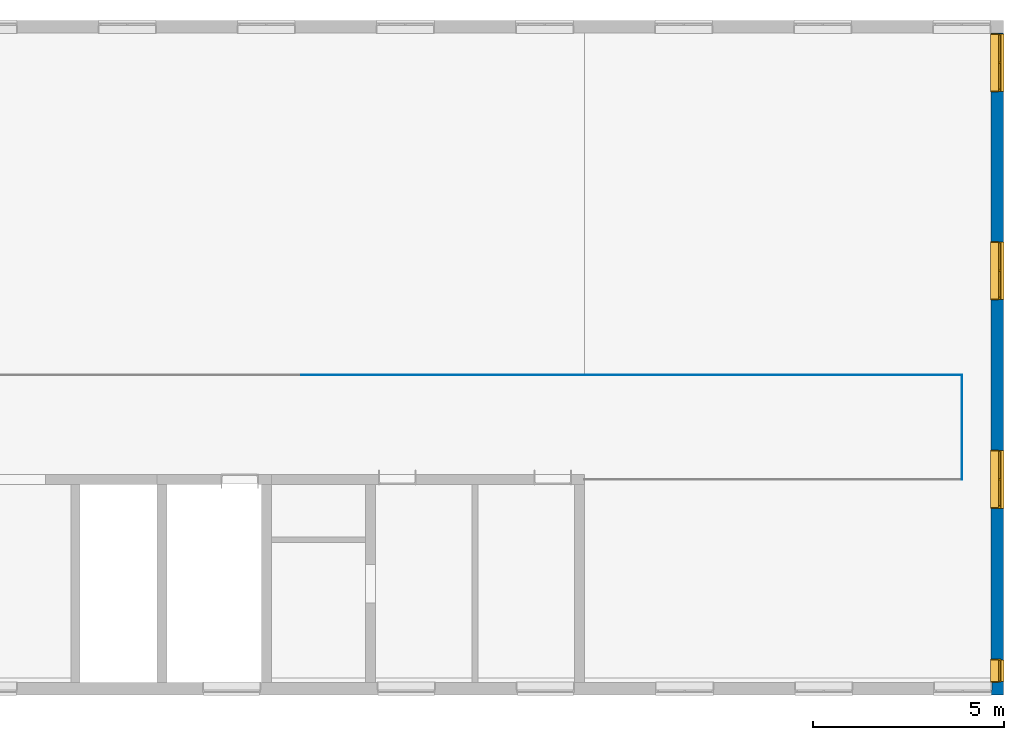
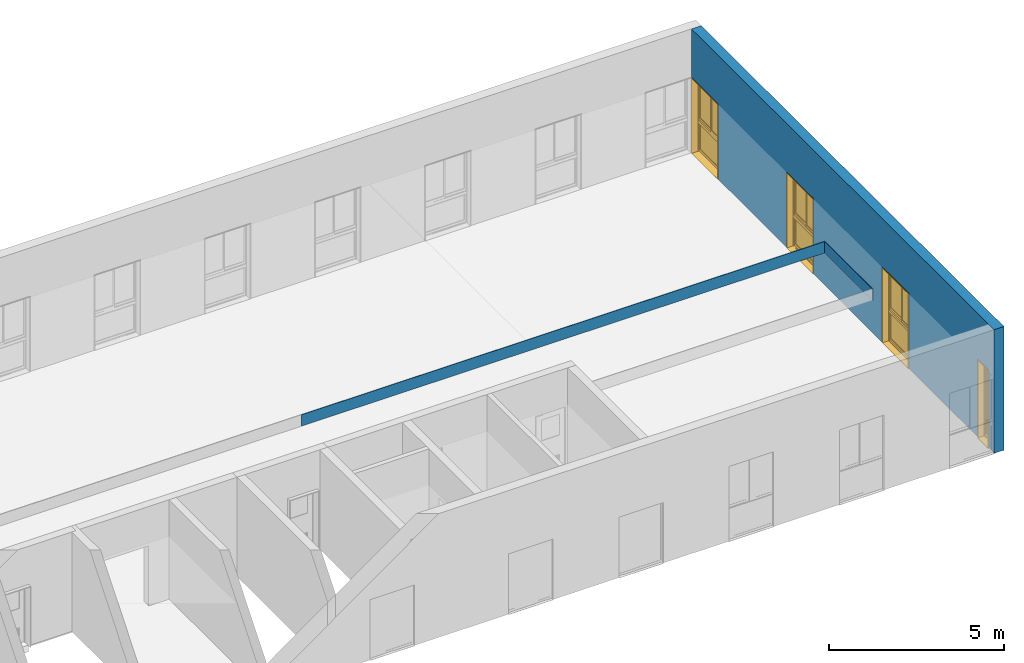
# One storey, part 10 of 11: 4 windows, 3 walls, 5 openings.
"""IFC4X3 building model written with IfcOpenShell, lengths in millimetres."""

from ifc_helpers import new_model, entity, si_unit, converted_unit, derived_unit, direction, frame, frame_2d, origin, origin_2d_with_axis, place, context, subcontext, project, spatial, polyline, rectangle, outline, extrude, faceted_brep, source, transform, mapped, material, layer, layer_set, constituent, constituent_set, type_object, type_shapes, element, fill, save


model = new_model("IFC4X3")

# Units and contexts
model_context = context("Model", 3, precision=0.01, world=origin(), true_north=direction((6.12303176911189e-17, 1.0)))
body_context = subcontext(model_context, "Body", "Model", "MODEL_VIEW")
ifc_project = project(units=[si_unit("LENGTHUNIT", "METRE", prefix="MILLI"), si_unit("AREAUNIT", "SQUARE_METRE"), si_unit("VOLUMEUNIT", "CUBIC_METRE"), converted_unit("PLANEANGLEUNIT", "DEGREE", entity("IfcPlaneAngleMeasure", 0.0174532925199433), si_unit("PLANEANGLEUNIT", "RADIAN"), dimensions=[0, 0, 0, 0, 0, 0, 0]), si_unit("MASSUNIT", "GRAM", prefix="KILO"), derived_unit("MASSDENSITYUNIT", [(si_unit("MASSUNIT", "GRAM", prefix="KILO"), 1), (si_unit("LENGTHUNIT", "METRE"), -3)]), derived_unit("IONCONCENTRATIONUNIT", [(si_unit("MASSUNIT", "GRAM", prefix="KILO"), 1), (si_unit("LENGTHUNIT", "METRE"), -3)]), derived_unit("MOMENTOFINERTIAUNIT", [(si_unit("LENGTHUNIT", "METRE"), 4)]), si_unit("TIMEUNIT", "SECOND"), si_unit("FREQUENCYUNIT", "HERTZ"), si_unit("THERMODYNAMICTEMPERATUREUNIT", "DEGREE_CELSIUS"), derived_unit("THERMALTRANSMITTANCEUNIT", [(si_unit("MASSUNIT", "GRAM", prefix="KILO"), 1), (si_unit("THERMODYNAMICTEMPERATUREUNIT", "KELVIN"), -1), (si_unit("TIMEUNIT", "SECOND"), -3)]), derived_unit("THERMALCONDUCTANCEUNIT", [(si_unit("MASSUNIT", "GRAM", prefix="KILO"), 1), (si_unit("THERMODYNAMICTEMPERATUREUNIT", "KELVIN"), -1), (si_unit("TIMEUNIT", "SECOND"), -3), (si_unit("LENGTHUNIT", "METRE"), 1)]), derived_unit("VOLUMETRICFLOWRATEUNIT", [(si_unit("LENGTHUNIT", "METRE", prefix="DECI"), 3), (si_unit("TIMEUNIT", "SECOND"), -1)]), derived_unit("MASSFLOWRATEUNIT", [(si_unit("MASSUNIT", "GRAM", prefix="KILO"), 1), (si_unit("TIMEUNIT", "SECOND"), -1)]), derived_unit("ROTATIONALFREQUENCYUNIT", [(si_unit("TIMEUNIT", "SECOND"), -1)]), si_unit("ELECTRICCURRENTUNIT", "AMPERE"), si_unit("ELECTRICVOLTAGEUNIT", "VOLT"), si_unit("POWERUNIT", "WATT"), si_unit("FORCEUNIT", "NEWTON", prefix="KILO"), si_unit("ILLUMINANCEUNIT", "LUX"), si_unit("LUMINOUSFLUXUNIT", "LUMEN"), si_unit("LUMINOUSINTENSITYUNIT", "CANDELA"), si_unit("ENERGYUNIT", "JOULE"), derived_unit("USERDEFINED", [(si_unit("MASSUNIT", "GRAM", prefix="KILO"), -1), (si_unit("LENGTHUNIT", "METRE"), -2), (si_unit("TIMEUNIT", "SECOND"), 3), (si_unit("LUMINOUSFLUXUNIT", "LUMEN"), 1)]), derived_unit("USERDEFINED", [(si_unit("MASSUNIT", "GRAM", prefix="KILO"), 1), (si_unit("TIMEUNIT", "SECOND"), -3), (si_unit("LENGTHUNIT", "METRE"), 3), (si_unit("ELECTRICCURRENTUNIT", "AMPERE"), -2)]), derived_unit("SOUNDPOWERUNIT", [(si_unit("MASSUNIT", "GRAM", prefix="KILO"), 1), (si_unit("TIMEUNIT", "SECOND"), -3), (si_unit("LENGTHUNIT", "METRE"), 2)]), derived_unit("SOUNDPRESSUREUNIT", [(si_unit("MASSUNIT", "GRAM", prefix="KILO"), 1), (si_unit("LENGTHUNIT", "METRE"), -1), (si_unit("TIMEUNIT", "SECOND"), -2)]), derived_unit("LINEARVELOCITYUNIT", [(si_unit("LENGTHUNIT", "METRE"), 1), (si_unit("TIMEUNIT", "SECOND"), -1)]), si_unit("PRESSUREUNIT", "PASCAL"), derived_unit("USERDEFINED", [(si_unit("MASSUNIT", "GRAM", prefix="KILO"), 1), (si_unit("LENGTHUNIT", "METRE"), -2), (si_unit("TIMEUNIT", "SECOND"), -2)]), derived_unit("LINEARFORCEUNIT", [(si_unit("MASSUNIT", "GRAM", prefix="KILO"), 1), (si_unit("TIMEUNIT", "SECOND"), -2)]), derived_unit("PLANARFORCEUNIT", [(si_unit("MASSUNIT", "GRAM", prefix="KILO"), 1), (si_unit("LENGTHUNIT", "METRE"), -1), (si_unit("TIMEUNIT", "SECOND"), -2)]), derived_unit("SPECIFICHEATCAPACITYUNIT", [(si_unit("THERMODYNAMICTEMPERATUREUNIT", "KELVIN"), -1), (si_unit("LENGTHUNIT", "METRE"), 2), (si_unit("TIMEUNIT", "SECOND"), -2)]), derived_unit("HEATFLUXDENSITYUNIT", [(si_unit("MASSUNIT", "GRAM", prefix="KILO"), 1), (si_unit("TIMEUNIT", "SECOND"), -3)]), derived_unit("HEATINGVALUEUNIT", [(si_unit("LENGTHUNIT", "METRE"), 2), (si_unit("TIMEUNIT", "SECOND"), -2)]), derived_unit("VAPORPERMEABILITYUNIT", [(si_unit("LENGTHUNIT", "METRE"), -1), (si_unit("TIMEUNIT", "SECOND"), 1)]), derived_unit("DYNAMICVISCOSITYUNIT", [(si_unit("MASSUNIT", "GRAM", prefix="KILO"), 1), (si_unit("TIMEUNIT", "SECOND"), -1), (si_unit("LENGTHUNIT", "METRE"), -1)]), derived_unit("THERMALEXPANSIONCOEFFICIENTUNIT", [(si_unit("THERMODYNAMICTEMPERATUREUNIT", "KELVIN"), -1)]), derived_unit("MODULUSOFELASTICITYUNIT", [(si_unit("MASSUNIT", "GRAM", prefix="KILO"), 1), (si_unit("LENGTHUNIT", "METRE"), -1), (si_unit("TIMEUNIT", "SECOND"), -2)]), derived_unit("ISOTHERMALMOISTURECAPACITYUNIT", [(si_unit("MASSUNIT", "GRAM", prefix="KILO"), -1), (si_unit("LENGTHUNIT", "METRE"), 3)]), derived_unit("MOISTUREDIFFUSIVITYUNIT", [(si_unit("TIMEUNIT", "SECOND"), -1), (si_unit("LENGTHUNIT", "METRE"), 2)]), derived_unit("AREADENSITYUNIT", [(si_unit("MASSUNIT", "GRAM", prefix="KILO"), 1), (si_unit("LENGTHUNIT", "METRE"), 2)]), derived_unit("MASSPERLENGTHUNIT", [(si_unit("MASSUNIT", "GRAM", prefix="KILO"), 1), (si_unit("LENGTHUNIT", "METRE"), -1)]), derived_unit("THERMALRESISTANCEUNIT", [(si_unit("MASSUNIT", "GRAM", prefix="KILO"), -1), (si_unit("TIMEUNIT", "SECOND"), 3), (si_unit("THERMODYNAMICTEMPERATUREUNIT", "KELVIN"), 1)]), derived_unit("ACCELERATIONUNIT", [(si_unit("LENGTHUNIT", "METRE"), 1), (si_unit("TIMEUNIT", "SECOND"), -2)]), derived_unit("ANGULARVELOCITYUNIT", [(si_unit("TIMEUNIT", "SECOND"), -1), (si_unit("PLANEANGLEUNIT", "RADIAN"), 1)]), derived_unit("LINEARSTIFFNESSUNIT", [(si_unit("MASSUNIT", "GRAM", prefix="KILO"), 1), (si_unit("TIMEUNIT", "SECOND"), -2)]), derived_unit("WARPINGCONSTANTUNIT", [(si_unit("LENGTHUNIT", "METRE"), 6)]), derived_unit("LINEARMOMENTUNIT", [(si_unit("MASSUNIT", "GRAM", prefix="KILO"), 1), (si_unit("LENGTHUNIT", "METRE"), 1), (si_unit("TIMEUNIT", "SECOND"), -2)]), derived_unit("TORQUEUNIT", [(si_unit("MASSUNIT", "GRAM", prefix="KILO"), 1), (si_unit("LENGTHUNIT", "METRE"), 2), (si_unit("TIMEUNIT", "SECOND"), -2)])], contexts=[model_context])

# Site, building, storey
site_placement = place(None, origin())
site = spatial("IfcSite", under=ifc_project, at=site_placement, Name="Default", CompositionType="ELEMENT")
building_placement = place(site_placement, origin())
building = spatial("IfcBuilding", under=site, at=building_placement, Name="事務所ビル", CompositionType="ELEMENT")
storey_placement = place(building_placement, frame((0.0, 0.0, 8000.0)))
storey = spatial("IfcBuildingStorey", under=building, at=storey_placement, Name="3FL", CompositionType="ELEMENT", Elevation=8000.0)

# Wall, openings, windows
ifc_material_1 = material(Name="<Unnamed>")
ifc_layer_1 = layer(ifc_material_1, 46.0, Name="Layer")
ifc_material_2 = material(Name="合板", Category="一般")
ifc_layer_2 = layer(ifc_material_2, 12.0, Name="合板", Category="一般")
ifc_material_3 = material(Name="天然木材", Category="一般")
ifc_layer_3 = layer(ifc_material_3, 240.0, Name="天然木材", Category="一般")
ifc_layer_4 = layer(ifc_material_2, 12.0, Name="合板", Category="一般")
ifc_material_4 = material(Name="せっこうボード", Category="一般")
ifc_layer_5 = layer(ifc_material_4, 15.0, Name="せっこうボード", Category="一般")
ifc_layer_set_1 = layer_set([ifc_layer_1, ifc_layer_2, ifc_layer_3, ifc_layer_4, ifc_layer_5], Name="標準壁:外装材46_構造用合板12_木240_構造用合板12_GB-R15")
wall_type_1 = type_object("IfcWallType", Name="標準壁:外装材46_構造用合板12_木240_構", PredefinedType="STANDARD", material=ifc_layer_set_1)
wall_1_placement = place(storey_placement, frame((49155.4999999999, -178.0, 0.0), z_axis=(0.0, 0.0, 1.0), x_axis=(0.0, 1.0, 0.0)))
wall_1 = element("IfcWall", 1, at=wall_1_placement, inside=storey, type_object=wall_type_1, material=ifc_layer_set_1, Name="標準壁:外装材46_構造用合板12_木240_構造用合板12_GB-R15", ObjectType="標準壁:外装材46_構造用合板12_木240_構造用合板12_GB-R15", PredefinedType="NOTDEFINED", context=body_context, shape_type="SweptSolid", body=[
    extrude(rectangle(XDim=17321.0000000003, YDim=325.000000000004, at=frame_2d((8660.50000000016, -5.31485966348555e-12), x_axis=(1.0, 0.0))), origin(), (0.0, 0.0, 1.0), 4320.0),
])
opening_1_placement = place(wall_1_placement, frame((178.0, 49155.4999999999, 0.0)))
element("IfcOpeningElement", 2, at=opening_1_placement, cuts=wall_1, Name="標準壁:外装材46_構造用合板12_木240_構造用合板12_GB-R15", PredefinedType="OPENING", context=body_context, shape_type="Brep", body=[
    faceted_brep([(157.0, -47484.4999999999, -35.0), (-48.0, -47484.4999999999, -35.0), (-48.0, -47484.4999999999, 2635.0), (157.0, -47484.4999999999, 2635.0), (157.0, -49014.4999999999, -35.0), (157.0, -49014.4999999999, 2635.0), (-48.0, -49014.4999999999, 2635.0), (-48.0, -49014.4999999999, -35.0), (-48.0, -49004.4999999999, -35.0), (-48.0, -47494.4999999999, -35.0), (-48.0, -47494.4999999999, 2630.0), (-48.0, -49004.4999999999, 2630.0), (-48.0, -47494.4999999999, -105.0), (-118.0, -47494.4999999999, -115.769230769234), (-118.0, -47494.4999999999, 2630.0), (-48.0, -49004.4999999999, -105.0), (-118.0, -49004.4999999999, 2630.0), (-118.0, -49004.4999999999, -115.769230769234), (-118.0, -47514.4999999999, 2610.0), (-118.0, -48984.4999999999, 2610.0), (-118.0, -48984.4999999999, -10.0), (-118.0, -47514.4999999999, -10.0), (-178.0, -47514.4999999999, -10.0), (-178.0, -47514.4999999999, 2610.0), (-178.0, -48984.4999999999, 2610.0), (-178.0, -48984.4999999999, -10.0)], [[[0, 1, 2, 3]], [[4, 5, 6, 7]], [[0, 4, 7, 8, 9, 1]], [[1, 9, 10, 11, 8, 7, 6, 2]], [[2, 6, 5, 3]], [[3, 5, 4, 0]], [[10, 9, 12, 13, 14]], [[15, 8, 11, 16, 17]], [[12, 15, 17, 13]], [[13, 17, 16, 14], [18, 19, 20, 21]], [[14, 16, 11, 10]], [[12, 9, 8, 15]], [[18, 21, 22, 23]], [[20, 19, 24, 25]], [[21, 20, 25, 22]], [[22, 25, 24, 23]], [[23, 24, 19, 18]]]),
])
opening_2_placement = place(wall_1_placement, frame((178.0, 49155.4999999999, 0.0), z_axis=(0.0, 0.0, 1.0), x_axis=(0.0, -1.0, 0.0)))
opening_2 = element("IfcOpeningElement", 3, at=opening_2_placement, cuts=wall_1, Name="標準壁:外装材46_構造用合板12_木240_構造用合板12_GB-R15", PredefinedType="OPENING", context=body_context, shape_type="Brep", body=[
    faceted_brep([(49188.0, 15611.4999999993, -105.0), (49188.0, 15611.4999999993, -35.0), (49188.0, 17121.4999999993, -35.0), (49188.0, 17121.4999999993, -105.0), (49258.0, 15631.4999999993, 2610.0), (49258.0, 15631.4999999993, -10.0), (49318.0, 15631.4999999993, -10.0), (49318.0, 15631.4999999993, 2610.0), (49258.0, 17101.4999999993, -10.0), (49258.0, 17101.4999999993, 2610.0), (49318.0, 17101.4999999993, 2610.0), (49318.0, 17101.4999999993, -10.0), (48983.0, 15601.4999999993, -35.0), (49188.0, 15601.4999999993, -35.0), (49188.0, 15601.4999999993, 2635.0), (48983.0, 15601.4999999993, 2635.0), (48983.0, 17131.4999999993, -35.0), (48983.0, 17131.4999999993, 2635.0), (49188.0, 17131.4999999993, 2635.0), (49188.0, 17131.4999999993, -35.0), (49188.0, 15611.4999999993, 2630.0), (49188.0, 17121.4999999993, 2630.0), (49258.0, 15611.4999999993, -115.769230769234), (49258.0, 15611.4999999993, 2630.0), (49258.0, 17121.4999999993, 2630.0), (49258.0, 17121.4999999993, -115.769230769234)], [[[0, 1, 2, 3]], [[4, 5, 6, 7]], [[8, 9, 10, 11]], [[5, 8, 11, 6]], [[7, 10, 9, 4]], [[12, 13, 14, 15]], [[16, 17, 18, 19]], [[12, 16, 19, 2, 1, 13]], [[13, 1, 20, 21, 2, 19, 18, 14]], [[14, 18, 17, 15]], [[15, 17, 16, 12]], [[20, 1, 0, 22, 23]], [[3, 2, 21, 24, 25]], [[0, 3, 25, 22]], [[22, 25, 24, 23], [4, 9, 8, 5]], [[23, 24, 21, 20]], [[6, 11, 10, 7]]]),
])
opening_3_placement = place(wall_1_placement, frame((178.0, 49155.4999999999, 0.0), z_axis=(0.0, 0.0, 1.0), x_axis=(0.0, -1.0, 0.0)))
opening_3 = element("IfcOpeningElement", 4, at=opening_3_placement, cuts=wall_1, Name="標準壁:外装材46_構造用合板12_木240_構造用合板12_GB-R15", PredefinedType="OPENING", context=body_context, shape_type="Brep", body=[
    faceted_brep([(49188.0, 10165.0, -105.0), (49188.0, 10165.0, -35.0), (49188.0, 11675.0, -35.0), (49188.0, 11675.0, -105.0), (49258.0, 10185.0, 2610.0), (49258.0, 10185.0, -10.0), (49318.0, 10185.0, -10.0), (49318.0, 10185.0, 2610.0), (49258.0, 11655.0, -10.0), (49258.0, 11655.0, 2610.0), (49318.0, 11655.0, 2610.0), (49318.0, 11655.0, -10.0), (48983.0, 10155.0, -35.0), (49188.0, 10155.0, -35.0), (49188.0, 10155.0, 2635.0), (48983.0, 10155.0, 2635.0), (48983.0, 11685.0, -35.0), (48983.0, 11685.0, 2635.0), (49188.0, 11685.0, 2635.0), (49188.0, 11685.0, -35.0), (49188.0, 10165.0, 2630.0), (49188.0, 11675.0, 2630.0), (49258.0, 10165.0, -115.769230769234), (49258.0, 10165.0, 2630.0), (49258.0, 11675.0, 2630.0), (49258.0, 11675.0, -115.769230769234)], [[[0, 1, 2, 3]], [[4, 5, 6, 7]], [[8, 9, 10, 11]], [[5, 8, 11, 6]], [[7, 10, 9, 4]], [[12, 13, 14, 15]], [[16, 17, 18, 19]], [[12, 16, 19, 2, 1, 13]], [[13, 1, 20, 21, 2, 19, 18, 14]], [[14, 18, 17, 15]], [[15, 17, 16, 12]], [[20, 1, 0, 22, 23]], [[3, 2, 21, 24, 25]], [[0, 3, 25, 22]], [[22, 25, 24, 23], [4, 9, 8, 5]], [[23, 24, 21, 20]], [[6, 11, 10, 7]]]),
])
opening_4_placement = place(wall_1_placement, frame((178.0, 49155.4999999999, 0.0), z_axis=(0.0, 0.0, 1.0), x_axis=(0.0, -1.0, 0.0)))
opening_4 = element("IfcOpeningElement", 5, at=opening_4_placement, cuts=wall_1, Name="標準壁:外装材46_構造用合板12_木240_構造用合板12_GB-R15", PredefinedType="OPENING", context=body_context, shape_type="Brep", body=[
    faceted_brep([(49188.0, 4705.0, -105.0), (49188.0, 4705.0, -35.0), (49188.0, 6215.0, -35.0), (49188.0, 6215.0, -105.0), (49258.0, 4725.0, 2610.0), (49258.0, 4725.0, -10.0), (49318.0, 4725.0, -10.0), (49318.0, 4725.0, 2610.0), (49258.0, 6195.0, -10.0), (49258.0, 6195.0, 2610.0), (49318.0, 6195.0, 2610.0), (49318.0, 6195.0, -10.0), (48983.0, 4695.0, -35.0), (49188.0, 4695.0, -35.0), (49188.0, 4695.0, 2635.0), (48983.0, 4695.0, 2635.0), (48983.0, 6225.0, -35.0), (48983.0, 6225.0, 2635.0), (49188.0, 6225.0, 2635.0), (49188.0, 6225.0, -35.0), (49188.0, 4705.0, 2630.0), (49188.0, 6215.0, 2630.0), (49258.0, 4705.0, -115.769230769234), (49258.0, 4705.0, 2630.0), (49258.0, 6215.0, 2630.0), (49258.0, 6215.0, -115.769230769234)], [[[0, 1, 2, 3]], [[4, 5, 6, 7]], [[8, 9, 10, 11]], [[5, 8, 11, 6]], [[7, 10, 9, 4]], [[12, 13, 14, 15]], [[16, 17, 18, 19]], [[12, 16, 19, 2, 1, 13]], [[13, 1, 20, 21, 2, 19, 18, 14]], [[14, 18, 17, 15]], [[15, 17, 16, 12]], [[20, 1, 0, 22, 23]], [[3, 2, 21, 24, 25]], [[0, 3, 25, 22]], [[22, 25, 24, 23], [4, 9, 8, 5]], [[23, 24, 21, 20]], [[6, 11, 10, 7]]]),
])
opening_5_placement = place(wall_1_placement, frame((178.0, 49155.4999999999, 0.0), z_axis=(0.0, 0.0, 1.0), x_axis=(0.0, -1.0, 0.0)))
opening_5 = element("IfcOpeningElement", 6, at=opening_5_placement, cuts=wall_1, Name="標準壁:外装材46_構造用合板12_木240_構造用合板12_GB-R15", PredefinedType="OPENING", context=body_context, shape_type="Brep", body=[
    faceted_brep([(49188.0, 765.0, -35.0), (49188.0, 765.0, 2735.0), (49188.0, 145.0, 2735.0), (49188.0, 145.0, -35.0), (49188.0, 155.0, -35.0), (49188.0, 155.0, 2730.0), (49188.0, 755.0, 2730.0), (49188.0, 755.0, -35.0), (49258.0, 755.0, -115.769230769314), (49258.0, 755.0, 2730.0), (49258.0, 155.0, 2730.0), (49258.0, 155.0, -115.769230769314), (49258.0, 175.0, -115.769230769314), (49258.0, 175.0, 2710.0), (49258.0, 735.0, 2710.0), (49258.0, 735.0, -115.769230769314), (48983.0, 765.0, -35.0), (48983.0, 765.0, 2735.0), (48983.0, 145.0, -35.0), (48983.0, 145.0, 2735.0), (49188.0, 755.0, -105.0), (49188.0, 155.0, -105.0), (49318.0, 735.0, -125.0), (49318.0, 175.0, -125.0), (49318.0, 735.0, 2710.0), (49318.0, 175.0, 2710.0)], [[[0, 1, 2, 3, 4, 5, 6, 7]], [[8, 9, 10, 11, 12, 13, 14, 15]], [[16, 17, 1, 0]], [[18, 3, 2, 19]], [[16, 0, 7, 4, 3, 18]], [[1, 17, 19, 2]], [[17, 16, 18, 19]], [[6, 9, 8, 20, 7]], [[21, 11, 10, 5, 4]], [[20, 8, 15, 22, 23, 12, 11, 21]], [[9, 6, 5, 10]], [[20, 21, 4, 7]], [[14, 24, 22, 15]], [[12, 23, 25, 13]], [[22, 24, 25, 23]], [[24, 14, 13, 25]]]),
])
ifc_material_5 = material(Name="ガラス - 透明", Category="未設定")
ifc_constituent_1 = constituent(ifc_material_5, Name="ガラス - 透明", Category="未設定")
ifc_material_6 = material(Name="金属 - アルミニウム", Category="未設定")
ifc_constituent_2 = constituent(ifc_material_6, Name="金属 - アルミニウム", Category="未設定")
ifc_material_7 = material(Name="塗装 - 白", Category="未設定")
ifc_constituent_3 = constituent(ifc_material_7, Name="塗装 - 白", Category="未設定")
ifc_constituent_set_1 = constituent_set(constituents=[ifc_constituent_1, ifc_constituent_2, ifc_constituent_3])
ifc_constituent_4 = constituent(ifc_material_5, Name="ガラス", Category="未設定")
ifc_constituent_5 = constituent(ifc_material_6, Name="フレーム/マリオン", Category="未設定")
ifc_constituent_6 = constituent(ifc_material_7, Name="縁飾り", Category="未設定")
ifc_constituent_set_2 = constituent_set(constituents=[ifc_constituent_4, ifc_constituent_5, ifc_constituent_6])
window_type_1 = type_object("IfcWindowType", Name="鋼製_一般枠_2 段 1 列_嵌殺し+引違い:1450x2600", ParameterTakesPrecedence=False, PartitioningType="NOTDEFINED", PredefinedType="WINDOW", material=ifc_constituent_set_2)
shared_shape_1 = source(origin(), body_context, "Body", "SweptSolid", [
    extrude(rectangle(XDim=5.0, YDim=664.999999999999, at=frame_2d((-4.21884749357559e-15, 0.0), x_axis=(1.0, 0.0))), frame((1117.5, 232.500000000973, 1295.76923076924), z_axis=(0.0, 0.0, 1.0), x_axis=(0.0, 1.0, 0.0)), (0.0, 0.0, 1.0), 1379.99999999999),
    extrude(rectangle(XDim=5.0, YDim=664.999999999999, at=frame_2d((-8.43769498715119e-15, 0.0), x_axis=(1.0, 0.0))), frame((412.5, 262.500000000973, 1295.76923076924), z_axis=(0.0, 0.0, 1.0), x_axis=(0.0, 1.0, 0.0)), (0.0, 0.0, 1.0), 1379.99999999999),
    extrude(outline(polyline([(-372.5, -750.0), (372.5, -750.0), (372.5, 750.0), (-372.5, 750.0), (-372.5, -750.0)]), holes=[polyline([(-332.5, -670.0), (-332.5, 710.0), (332.5, 710.0), (332.5, -670.0), (-332.5, -670.0)])]), frame((1117.5, 210.0, 1965.76923076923), z_axis=(0.0, 1.0, 0.0), x_axis=(-1.0, 0.0, 0.0)), (0.0, 0.0, 1.0), 30.0),
    extrude(outline(polyline([(-372.5, -750.0), (372.5, -750.0), (372.5, 750.0), (-372.5, 750.0), (-372.5, -750.0)]), holes=[polyline([(-332.5, -670.0), (-332.5, 710.0), (332.499999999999, 710.0), (332.499999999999, -670.0), (-332.5, -670.0)])]), frame((412.5, 240.0, 1965.76923076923), z_axis=(0.0, 1.0, 0.0), x_axis=(-1.0, 0.0, 0.0)), (0.0, 0.0, 1.0), 30.0),
    extrude(rectangle(XDim=5.0, YDim=1370.0, at=frame_2d((-8.43769498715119e-15, 0.0), x_axis=(1.0, 0.0))), frame((765.0, 262.500000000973, 205.769230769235), z_axis=(0.0, 0.0, 1.0), x_axis=(0.0, 1.0, 0.0)), (0.0, 0.0, 1.0), 869.999999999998),
    extrude(outline(polyline([(-725.0, -500.0), (725.0, -500.0), (725.0, 500.0), (-725.0, 500.0), (-725.0, -500.0)]), holes=[polyline([(-685.0, -410.0), (-685.0, 460.0), (685.0, 460.0), (685.0, -410.0), (-685.0, -410.0)])]), frame((765.0, 240.0, 615.769230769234), z_axis=(0.0, 1.0, 0.0), x_axis=(-1.0, 0.0, 0.0)), (0.0, 0.0, 1.0), 30.0),
    extrude(outline(polyline([(-43.5189986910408, -5.68477162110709), (32.1447310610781, -5.68477162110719), (37.1008705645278, -5.0239530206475), (35.7792333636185, 4.88832598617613), (30.8230938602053, 4.2275073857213), (31.5092934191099, -0.918989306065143), (-39.1116522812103, -0.918989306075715), (-39.8859354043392, 4.88813411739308), (-44.8406358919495, 4.22750738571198), (-43.5189986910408, -5.68477162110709)])), frame((10.0, 306.111433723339, 115.885959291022), z_axis=(1.0, 0.0, 0.0), x_axis=(0.0, -0.991227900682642, 0.132163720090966)), (0.0, 0.0, 1.0), 1510.0),
    extrude(rectangle(XDim=205.000000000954, YDim=1530.0, at=frame_2d((0.0, 5.6843418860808e-14), x_axis=(1.0, 0.0))), frame((765.0, 102.500000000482, 105.769230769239), z_axis=(0.0, 0.0, 1.0), x_axis=(0.0, 1.0, 0.0)), (0.0, 0.0, 1.0), 9.99999999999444),
    extrude(outline(polyline([(-1311.25000000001, -765.0), (1323.75000000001, -765.0), (1323.75000000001, 765.0), (-1311.25000000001, 765.0), (-1311.25000000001, 740.0), (1298.75000000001, 740.0), (1298.75000000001, -740.0), (-1311.25000000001, -740.0), (-1311.25000000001, -765.0)])), frame((765.0, 0.0, 1427.01923076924), z_axis=(0.0, 1.0, 0.0), x_axis=(0.0, 0.0, 1.0)), (0.0, 0.0, 1.0), 205.000000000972),
    extrude(outline(polyline([(-1307.5, -755.0), (1322.5, -755.0), (1322.5, 755.0), (-1307.5, 755.0), (-1307.5, 725.0), (1292.5, 725.0), (1292.5, -725.0), (-1307.5, -725.0), (-1307.5, -755.0)])), frame((765.0, 205.0, 1423.26923076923), z_axis=(0.0, 1.0, 0.0), x_axis=(0.0, 0.0, 1.0)), (0.0, 0.0, 1.0), 69.9999999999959),
    extrude(rectangle(XDim=1450.0, YDim=70.0, at=frame_2d((0.0, 1.06581410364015e-14), x_axis=(1.0, 0.0))), frame((765.0, 240.0, 105.769230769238)), (0.0, 0.0, 1.0), 18.7551639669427),
    extrude(outline(polyline([(-47.4999999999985, -35.0), (42.4999999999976, -35.0), (52.4999999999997, 35.0), (-47.4999999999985, 35.0), (-47.4999999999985, -35.0)])), frame((40.0, 240.0, 1163.26923076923), z_axis=(1.0, 0.0, 0.0), x_axis=(0.0, 0.0, 1.0)), (0.0, 0.0, 1.0), 1450.0),
])
type_shapes(window_type_1, [shared_shape_1])
window_1_placement = place(opening_4_placement, frame((48983.0, 6225.0, -115.769230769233), z_axis=(0.0, 0.0, 1.0), x_axis=(0.0, -1.0, 0.0)))
window_1 = element("IfcWindow", 7, at=window_1_placement, inside=storey, type_object=window_type_1, material=ifc_constituent_set_1, Name="鋼製_一般枠_2 段 1 列_嵌殺し+引違い:1450x2600", ObjectType="鋼製_一般枠_2 段 1 列_嵌殺し+引違い:1450x2600", OverallHeight=2760.00000000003, OverallWidth=1532.0, PartitioningType="NOTDEFINED", PredefinedType="WINDOW", context=body_context, shape_type="MappedRepresentation", body=[
    mapped(shared_shape_1, transform((0.0, 0.0, 0.0), scale=1.0)),
])
fill(opening_4, window_1)
ifc_constituent_7 = constituent(ifc_material_5, Name="ガラス - 透明", Category="未設定")
ifc_constituent_8 = constituent(ifc_material_6, Name="金属 - アルミニウム", Category="未設定")
ifc_constituent_9 = constituent(ifc_material_7, Name="塗装 - 白", Category="未設定")
ifc_constituent_set_3 = constituent_set(constituents=[ifc_constituent_7, ifc_constituent_8, ifc_constituent_9])
window_2_placement = place(opening_3_placement, frame((48983.0, 11685.0, -115.769230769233), z_axis=(0.0, 0.0, 1.0), x_axis=(0.0, -1.0, 0.0)))
window_2 = element("IfcWindow", 8, at=window_2_placement, inside=storey, type_object=window_type_1, material=ifc_constituent_set_3, Name="鋼製_一般枠_2 段 1 列_嵌殺し+引違い:1450x2600", ObjectType="鋼製_一般枠_2 段 1 列_嵌殺し+引違い:1450x2600", OverallHeight=2760.00000000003, OverallWidth=1532.0, PartitioningType="NOTDEFINED", PredefinedType="WINDOW", context=body_context, shape_type="MappedRepresentation", body=[
    mapped(shared_shape_1, transform((0.0, 0.0, 0.0), scale=1.0)),
])
fill(opening_3, window_2)
ifc_constituent_10 = constituent(ifc_material_5, Name="ガラス - 透明", Category="未設定")
ifc_constituent_11 = constituent(ifc_material_6, Name="金属 - アルミニウム", Category="未設定")
ifc_constituent_12 = constituent(ifc_material_7, Name="塗装 - 白", Category="未設定")
ifc_constituent_set_4 = constituent_set(constituents=[ifc_constituent_10, ifc_constituent_11, ifc_constituent_12])
window_3_placement = place(opening_2_placement, frame((48983.0, 17131.4999999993, -115.769230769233), z_axis=(0.0, 0.0, 1.0), x_axis=(0.0, -1.0, 0.0)))
window_3 = element("IfcWindow", 9, at=window_3_placement, inside=storey, type_object=window_type_1, material=ifc_constituent_set_4, Name="鋼製_一般枠_2 段 1 列_嵌殺し+引違い:1450x2600", ObjectType="鋼製_一般枠_2 段 1 列_嵌殺し+引違い:1450x2600", OverallHeight=2760.00000000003, OverallWidth=1532.0, PartitioningType="NOTDEFINED", PredefinedType="WINDOW", context=body_context, shape_type="MappedRepresentation", body=[
    mapped(shared_shape_1, transform((0.0, 0.0, 0.0), scale=1.0)),
])
fill(opening_2, window_3)
ifc_constituent_13 = constituent(ifc_material_5, Name="ガラス - 透明", Category="未設定")
ifc_constituent_14 = constituent(ifc_material_6, Name="金属 - アルミニウム", Category="未設定")
ifc_constituent_15 = constituent(ifc_material_7, Name="塗装 - 白", Category="未設定")
ifc_constituent_set_5 = constituent_set(constituents=[ifc_constituent_13, ifc_constituent_14, ifc_constituent_15])
ifc_constituent_16 = constituent(ifc_material_5, Name="ガラス", Category="未設定")
ifc_constituent_17 = constituent(ifc_material_6, Name="フレーム/マリオン", Category="未設定")
ifc_constituent_18 = constituent(ifc_material_7, Name="縁飾り", Category="未設定")
ifc_constituent_set_6 = constituent_set(constituents=[ifc_constituent_16, ifc_constituent_17, ifc_constituent_18])
window_type_2 = type_object("IfcWindowType", Name="鋼製_一般枠_嵌殺し:540x2700", ParameterTakesPrecedence=False, PartitioningType="NOTDEFINED", PredefinedType="WINDOW", material=ifc_constituent_set_6)
shared_shape_2 = source(origin(), body_context, "Body", "SweptSolid", [
    extrude(rectangle(XDim=459.999999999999, YDim=5.0, at=frame_2d((0.0, 8.43769498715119e-15), x_axis=(1.0, 0.0))), frame((310.0, 581.500000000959, 215.0)), (0.0, 0.0, 1.0), 2570.0),
    extrude(outline(polyline([(-1350.0, -270.0), (1350.0, -270.0), (1350.0, 270.0), (-1350.0, 270.0), (-1350.0, -270.0)]), holes=[polyline([(-1310.0, -230.0), (-1310.0, 230.0), (1260.0, 230.0), (1260.0, -230.0), (-1310.0, -230.0)])]), frame((310.0, 589.0, 1475.0), z_axis=(0.0, -1.0, 0.0), x_axis=(0.0, 0.0, -1.0)), (0.0, 0.0, 1.0), 30.0),
    extrude(outline(polyline([(0.116728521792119, -43.8885662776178), (10.1167285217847, -43.8885662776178), (10.1167285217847, -38.890018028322), (4.25821362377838, -38.890018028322), (-5.07531327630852, 31.1114337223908), (0.116728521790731, 31.1114337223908), (0.116728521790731, 36.1114337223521), (-9.88327147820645, 36.1114337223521), (-9.88327147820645, 31.1114337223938), (0.116728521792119, -43.8885662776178)])), frame((590.0, 621.111433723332, 125.116728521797), z_axis=(-1.0, 0.0, 0.0), x_axis=(0.0, 0.0, -1.0)), (0.0, 0.0, 1.0), 559.999999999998),
    extrude(rectangle(XDim=619.999999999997, YDim=205.000000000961, at=origin_2d_with_axis()), frame((310.0, 417.500000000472, 90.0)), (0.0, 0.0, 1.0), 25.0),
    extrude(outline(polyline([(285.0, -1378.75), (310.0, -1378.75), (310.0, 1391.25), (-310.0, 1391.25), (-310.0, -1378.75), (-285.0, -1378.75), (-285.0, 1366.25), (285.0, 1366.25), (285.0, -1378.75)])), frame((310.0, 520.0, 1468.75000000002), z_axis=(0.0, -1.0, 0.0), x_axis=(1.0, 0.0, 0.0)), (0.0, 0.0, 1.0), 205.000000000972),
    extrude(outline(polyline([(270.0, -1357.5), (300.0, -1357.5), (300.0, 1372.5), (-300.0, 1372.5), (-300.0, -1357.5), (-270.0, -1357.5), (-270.0, 1342.5), (270.0, 1342.5), (270.0, -1357.5)])), frame((310.0, 590.0, 1482.50000000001), z_axis=(0.0, -1.0, 0.0), x_axis=(1.0, 0.0, 0.0)), (0.0, 0.0, 1.0), 69.9999999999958),
    extrude(rectangle(XDim=69.9999999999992, YDim=539.999999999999, at=origin_2d_with_axis()), frame((310.0, 555.0, 125.0), z_axis=(0.0, 0.0, 1.0), x_axis=(0.0, 1.0, 0.0)), (0.0, 0.0, 1.0), 15.0000000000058),
])
type_shapes(window_type_2, [shared_shape_2])
window_4_placement = place(opening_5_placement, frame((48668.0, 765.0, -125.0), z_axis=(0.0, 0.0, 1.0), x_axis=(0.0, -1.0, 0.0)))
window_4 = element("IfcWindow", 10, at=window_4_placement, inside=storey, type_object=window_type_2, material=ifc_constituent_set_5, Name="鋼製_一般枠_嵌殺し:540x2700", ObjectType="鋼製_一般枠_嵌殺し:540x2700", OverallHeight=2860.00000000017, OverallWidth=621.999999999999, PartitioningType="NOTDEFINED", PredefinedType="WINDOW", context=body_context, shape_type="MappedRepresentation", body=[
    mapped(shared_shape_2, transform((0.0, 0.0, 0.0), scale=1.0)),
])
fill(opening_5, window_4)

# Walls
ifc_layer_6 = layer(ifc_material_1, 15.0, Name="Layer")
ifc_layer_set_2 = layer_set([ifc_layer_6], Name="標準壁:GB-R15")
wall_type_2 = type_object("IfcWallType", Name="標準壁:GB-R15", PredefinedType="STANDARD", material=ifc_layer_set_2)
wall_2_placement = place(storey_placement, frame((30940.0, 8190.0, 2200.0)))
element("IfcWall", 11, at=wall_2_placement, inside=storey, type_object=wall_type_2, material=ifc_layer_set_2, Name="標準壁:GB-R15", ObjectType="標準壁:GB-R15", PredefinedType="NOTDEFINED", context=body_context, shape_type="SweptSolid", body=[
    extrude(rectangle(XDim=17297.5, YDim=15.0000000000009, at=frame_2d((8648.75, 1.31894495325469e-13), x_axis=(-1.0, 0.0))), origin(), (0.0, 0.0, 1.0), 399.999999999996),
])
wall_3_placement = place(storey_placement, frame((48230.0, 8182.4999999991, 2200.0), z_axis=(0.0, 0.0, 1.0), x_axis=(0.0, -1.0, 0.0)))
element("IfcWall", 12, at=wall_3_placement, inside=storey, type_object=wall_type_2, material=ifc_layer_set_2, Name="標準壁:GB-R15", ObjectType="標準壁:GB-R15", PredefinedType="NOTDEFINED", context=body_context, shape_type="SweptSolid", body=[
    extrude(rectangle(XDim=2729.99999999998, YDim=14.9999999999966, at=frame_2d((1364.99999999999, 0.0), x_axis=(-1.0, 0.0))), origin(), (0.0, 0.0, 1.0), 399.999999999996),
])

save(model, "model.ifc")
